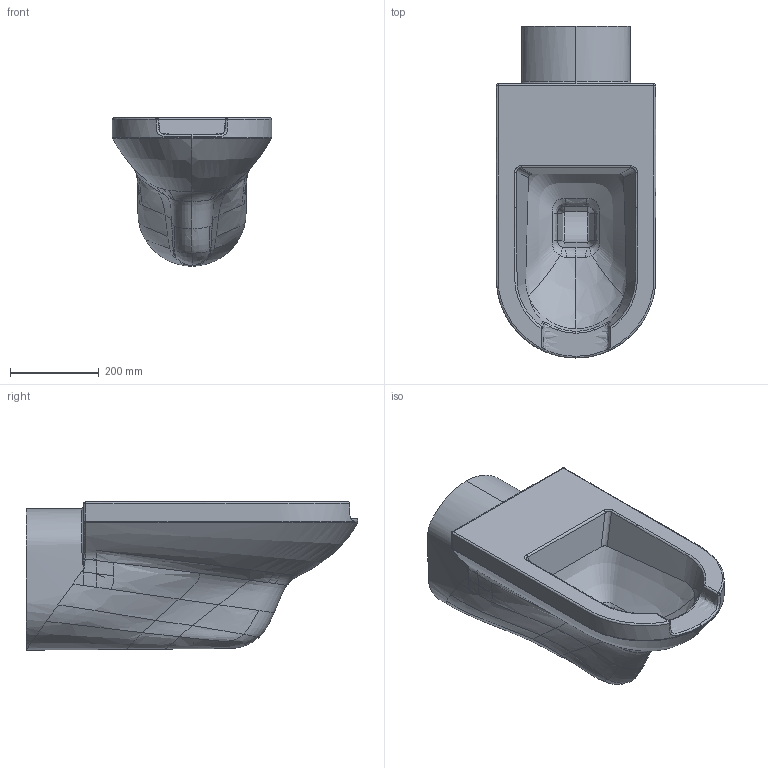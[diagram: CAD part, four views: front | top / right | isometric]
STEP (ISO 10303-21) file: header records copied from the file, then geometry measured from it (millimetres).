
FILE_DESCRIPTION (( 'STEP AP214' ), '1' );
FILE_NAME ('THI100_DIS.STEP', '2017-12-13T11:33:51', ( '' ), ( '' ), 'SwSTEP 2.0', 'SolidWorks 2018', '' );
FILE_SCHEMA (( 'AUTOMOTIVE_DESIGN' ));
Length unit declared in the file: millimetre
Products named in the file (1): THI100_DIS
Bounding box: 360 x 750 x 335.02 mm (x, y, z)
Volume: 30844188.7 mm3; surface area: 1066195.4 mm2
Topology: 1 solids, 1 shells, 164 faces, 409 edges, 243 vertices
Faces by surface type: bspline 122, plane 19, cylinder 15, cone 4, torus 4
Full cylindrical faces by diameter (mm): 25 x2, 55 x1, 100 x1
Entity records: 34174 total; most frequent: CARTESIAN_POINT 31302, ORIENTED_EDGE 790, EDGE_CURVE 395, B_SPLINE_CURVE_WITH_KNOTS 291, VERTEX_POINT 243, DIRECTION 242, EDGE_LOOP 174, FACE_OUTER_BOUND 168
